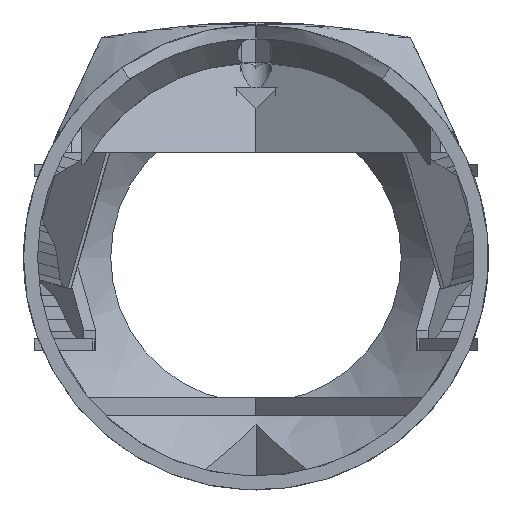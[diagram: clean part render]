
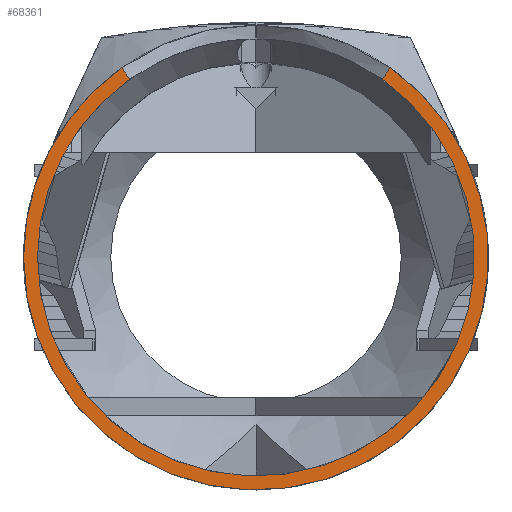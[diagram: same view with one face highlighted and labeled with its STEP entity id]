
A CAD part, left-side view. The second image highlights one B-rep face of the part: STEP entity #68361.
In plain terms, the highlighted planar face has unit normal (-1, 0, 0).
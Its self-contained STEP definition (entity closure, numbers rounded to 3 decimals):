
#79 = VERTEX_POINT('',#80);
#80 = CARTESIAN_POINT('',(198.,-11.551,16.327));
#108 = CYLINDRICAL_SURFACE('',#109,20.);
#109 = AXIS2_PLACEMENT_3D('',#110,#111,#112);
#110 = CARTESIAN_POINT('',(42.,0.,0.));
#111 = DIRECTION('',(1.,0.,0.));
#112 = DIRECTION('',(-0.,1.,0.));
#139 = B_SPLINE_SURFACE_WITH_KNOTS('',1,1,(
    (#140,#141)
    ,(#142,#143
  )),.UNSPECIFIED.,.F.,.F.,.F.,(2,2),(2,2),(0.,26.),(0.,1.),
  .PIECEWISE_BEZIER_KNOTS.);
#140 = CARTESIAN_POINT('',(193.99,0.,0.));
#141 = CARTESIAN_POINT('',(212.482,0.,0.));
#142 = CARTESIAN_POINT('',(193.99,-18.2,18.568));
#143 = CARTESIAN_POINT('',(212.482,-0.104,
    26.));
#170 = EDGE_CURVE('',#79,#171,#173,.T.);
#171 = VERTEX_POINT('',#172);
#172 = CARTESIAN_POINT('',(198.,20.,0.));
#173 = SURFACE_CURVE('',#174,(#179,#186),.PCURVE_S1.);
#174 = CIRCLE('',#175,20.);
#175 = AXIS2_PLACEMENT_3D('',#176,#177,#178);
#176 = CARTESIAN_POINT('',(198.,0.,0.));
#177 = DIRECTION('',(1.,0.,0.));
#178 = DIRECTION('',(-0.,1.,0.));
#179 = PCURVE('',#108,#180);
#180 = DEFINITIONAL_REPRESENTATION('',(#181),#185);
#181 = LINE('',#182,#183);
#182 = CARTESIAN_POINT('',(0.,156.));
#183 = VECTOR('',#184,1.);
#184 = DIRECTION('',(1.,0.));
#185 = ( GEOMETRIC_REPRESENTATION_CONTEXT(2) 
PARAMETRIC_REPRESENTATION_CONTEXT() REPRESENTATION_CONTEXT('2D SPACE',''
  ) );
#186 = PCURVE('',#187,#192);
#187 = PLANE('',#188);
#188 = AXIS2_PLACEMENT_3D('',#189,#190,#191);
#189 = CARTESIAN_POINT('',(198.,-60.,-120.));
#190 = DIRECTION('',(1.,0.,-0.));
#191 = DIRECTION('',(0.,0.,1.));
#192 = DEFINITIONAL_REPRESENTATION('',(#193),#197);
#193 = CIRCLE('',#194,20.);
#194 = AXIS2_PLACEMENT_2D('',#195,#196);
#195 = CARTESIAN_POINT('',(120.,-60.));
#196 = DIRECTION('',(0.,-1.));
#197 = ( GEOMETRIC_REPRESENTATION_CONTEXT(2) 
PARAMETRIC_REPRESENTATION_CONTEXT() REPRESENTATION_CONTEXT('2D SPACE',''
  ) );
#4441 = EDGE_CURVE('',#171,#4442,#4444,.T.);
#4442 = VERTEX_POINT('',#4443);
#4443 = CARTESIAN_POINT('',(198.,11.551,16.327));
#4444 = SURFACE_CURVE('',#4445,(#4450,#4457),.PCURVE_S1.);
#4445 = CIRCLE('',#4446,20.);
#4446 = AXIS2_PLACEMENT_3D('',#4447,#4448,#4449);
#4447 = CARTESIAN_POINT('',(198.,0.,0.));
#4448 = DIRECTION('',(1.,0.,0.));
#4449 = DIRECTION('',(-0.,1.,0.));
#4450 = PCURVE('',#108,#4451);
#4451 = DEFINITIONAL_REPRESENTATION('',(#4452),#4456);
#4452 = LINE('',#4453,#4454);
#4453 = CARTESIAN_POINT('',(0.,156.));
#4454 = VECTOR('',#4455,1.);
#4455 = DIRECTION('',(1.,0.));
#4456 = ( GEOMETRIC_REPRESENTATION_CONTEXT(2) 
PARAMETRIC_REPRESENTATION_CONTEXT() REPRESENTATION_CONTEXT('2D SPACE',''
  ) );
#4457 = PCURVE('',#187,#4458);
#4458 = DEFINITIONAL_REPRESENTATION('',(#4459),#4463);
#4459 = CIRCLE('',#4460,20.);
#4460 = AXIS2_PLACEMENT_2D('',#4461,#4462);
#4461 = CARTESIAN_POINT('',(120.,-60.));
#4462 = DIRECTION('',(0.,-1.));
#4463 = ( GEOMETRIC_REPRESENTATION_CONTEXT(2) 
PARAMETRIC_REPRESENTATION_CONTEXT() REPRESENTATION_CONTEXT('2D SPACE',''
  ) );
#4519 = B_SPLINE_SURFACE_WITH_KNOTS('',1,1,(
    (#4520,#4521)
    ,(#4522,#4523
    )),.UNSPECIFIED.,.F.,.F.,.F.,(2,2),(2,2),(0.,26.),(0.,1.),
  .PIECEWISE_BEZIER_KNOTS.);
#4520 = CARTESIAN_POINT('',(193.99,18.2,18.568));
#4521 = CARTESIAN_POINT('',(212.482,0.104,
    26.));
#4522 = CARTESIAN_POINT('',(193.99,0.,0.));
#4523 = CARTESIAN_POINT('',(212.482,0.,0.));
#7077 = CYLINDRICAL_SURFACE('',#7078,18.8);
#7078 = AXIS2_PLACEMENT_3D('',#7079,#7080,#7081);
#7079 = CARTESIAN_POINT('',(42.,0.,0.));
#7080 = DIRECTION('',(1.,0.,0.));
#7081 = DIRECTION('',(-0.,1.,0.));
#7115 = VERTEX_POINT('',#7116);
#7116 = CARTESIAN_POINT('',(198.,-10.858,15.348));
#7196 = EDGE_CURVE('',#7115,#7197,#7199,.T.);
#7197 = VERTEX_POINT('',#7198);
#7198 = CARTESIAN_POINT('',(198.,18.8,0.));
#7199 = SURFACE_CURVE('',#7200,(#7205,#7212),.PCURVE_S1.);
#7200 = CIRCLE('',#7201,18.8);
#7201 = AXIS2_PLACEMENT_3D('',#7202,#7203,#7204);
#7202 = CARTESIAN_POINT('',(198.,0.,0.));
#7203 = DIRECTION('',(1.,0.,0.));
#7204 = DIRECTION('',(-0.,1.,0.));
#7205 = PCURVE('',#7077,#7206);
#7206 = DEFINITIONAL_REPRESENTATION('',(#7207),#7211);
#7207 = LINE('',#7208,#7209);
#7208 = CARTESIAN_POINT('',(0.,156.));
#7209 = VECTOR('',#7210,1.);
#7210 = DIRECTION('',(1.,0.));
#7211 = ( GEOMETRIC_REPRESENTATION_CONTEXT(2) 
PARAMETRIC_REPRESENTATION_CONTEXT() REPRESENTATION_CONTEXT('2D SPACE',''
  ) );
#7212 = PCURVE('',#187,#7213);
#7213 = DEFINITIONAL_REPRESENTATION('',(#7214),#7218);
#7214 = CIRCLE('',#7215,18.8);
#7215 = AXIS2_PLACEMENT_2D('',#7216,#7217);
#7216 = CARTESIAN_POINT('',(120.,-60.));
#7217 = DIRECTION('',(0.,-1.));
#7218 = ( GEOMETRIC_REPRESENTATION_CONTEXT(2) 
PARAMETRIC_REPRESENTATION_CONTEXT() REPRESENTATION_CONTEXT('2D SPACE',''
  ) );
#12271 = EDGE_CURVE('',#7197,#12272,#12274,.T.);
#12272 = VERTEX_POINT('',#12273);
#12273 = CARTESIAN_POINT('',(198.,10.858,15.348));
#12274 = SURFACE_CURVE('',#12275,(#12280,#12287),.PCURVE_S1.);
#12275 = CIRCLE('',#12276,18.8);
#12276 = AXIS2_PLACEMENT_3D('',#12277,#12278,#12279);
#12277 = CARTESIAN_POINT('',(198.,0.,0.));
#12278 = DIRECTION('',(1.,0.,0.));
#12279 = DIRECTION('',(-0.,1.,0.));
#12280 = PCURVE('',#7077,#12281);
#12281 = DEFINITIONAL_REPRESENTATION('',(#12282),#12286);
#12282 = LINE('',#12283,#12284);
#12283 = CARTESIAN_POINT('',(0.,156.));
#12284 = VECTOR('',#12285,1.);
#12285 = DIRECTION('',(1.,0.));
#12286 = ( GEOMETRIC_REPRESENTATION_CONTEXT(2) 
PARAMETRIC_REPRESENTATION_CONTEXT() REPRESENTATION_CONTEXT('2D SPACE',''
  ) );
#12287 = PCURVE('',#187,#12288);
#12288 = DEFINITIONAL_REPRESENTATION('',(#12289),#12293);
#12289 = CIRCLE('',#12290,18.8);
#12290 = AXIS2_PLACEMENT_2D('',#12291,#12292);
#12291 = CARTESIAN_POINT('',(120.,-60.));
#12292 = DIRECTION('',(0.,-1.));
#12293 = ( GEOMETRIC_REPRESENTATION_CONTEXT(2) 
PARAMETRIC_REPRESENTATION_CONTEXT() REPRESENTATION_CONTEXT('2D SPACE',''
  ) );
#66174 = EDGE_CURVE('',#12272,#4442,#66175,.T.);
#66175 = SURFACE_CURVE('',#66176,(#66179,#66185),.PCURVE_S1.);
#66176 = B_SPLINE_CURVE_WITH_KNOTS('',1,(#66177,#66178),.UNSPECIFIED.,
  .F.,.F.,(2,2),(0.,1.),.PIECEWISE_BEZIER_KNOTS.);
#66177 = CARTESIAN_POINT('',(198.,10.323,14.591));
#66178 = CARTESIAN_POINT('',(198.,11.852,16.753));
#66179 = PCURVE('',#4519,#66180);
#66180 = DEFINITIONAL_REPRESENTATION('',(#66181),#66184);
#66181 = B_SPLINE_CURVE_WITH_KNOTS('',1,(#66182,#66183),.UNSPECIFIED.,
  .F.,.F.,(2,2),(0.,1.),.PIECEWISE_BEZIER_KNOTS.);
#66182 = CARTESIAN_POINT('',(7.2,0.217));
#66183 = CARTESIAN_POINT('',(4.414,0.217));
#66184 = ( GEOMETRIC_REPRESENTATION_CONTEXT(2) 
PARAMETRIC_REPRESENTATION_CONTEXT() REPRESENTATION_CONTEXT('2D SPACE',''
  ) );
#66185 = PCURVE('',#187,#66186);
#66186 = DEFINITIONAL_REPRESENTATION('',(#66187),#66190);
#66187 = B_SPLINE_CURVE_WITH_KNOTS('',1,(#66188,#66189),.UNSPECIFIED.,
  .F.,.F.,(2,2),(0.,1.),.PIECEWISE_BEZIER_KNOTS.);
#66188 = CARTESIAN_POINT('',(134.591,-70.323));
#66189 = CARTESIAN_POINT('',(136.753,-71.852));
#66190 = ( GEOMETRIC_REPRESENTATION_CONTEXT(2) 
PARAMETRIC_REPRESENTATION_CONTEXT() REPRESENTATION_CONTEXT('2D SPACE',''
  ) );
#68361 = ADVANCED_FACE('',(#68362),#187,.F.);
#68362 = FACE_BOUND('',#68363,.F.);
#68363 = EDGE_LOOP('',(#68364,#68365,#68366,#68367,#68368,#68369));
#68364 = ORIENTED_EDGE('',*,*,#170,.T.);
#68365 = ORIENTED_EDGE('',*,*,#4441,.T.);
#68366 = ORIENTED_EDGE('',*,*,#66174,.F.);
#68367 = ORIENTED_EDGE('',*,*,#12271,.F.);
#68368 = ORIENTED_EDGE('',*,*,#7196,.F.);
#68369 = ORIENTED_EDGE('',*,*,#68370,.F.);
#68370 = EDGE_CURVE('',#79,#7115,#68371,.T.);
#68371 = SURFACE_CURVE('',#68372,(#68375,#68381),.PCURVE_S1.);
#68372 = B_SPLINE_CURVE_WITH_KNOTS('',1,(#68373,#68374),.UNSPECIFIED.,
  .F.,.F.,(2,2),(0.,1.),.PIECEWISE_BEZIER_KNOTS.);
#68373 = CARTESIAN_POINT('',(198.,-11.852,16.753));
#68374 = CARTESIAN_POINT('',(198.,-10.323,14.591));
#68375 = PCURVE('',#187,#68376);
#68376 = DEFINITIONAL_REPRESENTATION('',(#68377),#68380);
#68377 = B_SPLINE_CURVE_WITH_KNOTS('',1,(#68378,#68379),.UNSPECIFIED.,
  .F.,.F.,(2,2),(0.,1.),.PIECEWISE_BEZIER_KNOTS.);
#68378 = CARTESIAN_POINT('',(136.753,-48.148));
#68379 = CARTESIAN_POINT('',(134.591,-49.677));
#68380 = ( GEOMETRIC_REPRESENTATION_CONTEXT(2) 
PARAMETRIC_REPRESENTATION_CONTEXT() REPRESENTATION_CONTEXT('2D SPACE',''
  ) );
#68381 = PCURVE('',#139,#68382);
#68382 = DEFINITIONAL_REPRESENTATION('',(#68383),#68386);
#68383 = B_SPLINE_CURVE_WITH_KNOTS('',1,(#68384,#68385),.UNSPECIFIED.,
  .F.,.F.,(2,2),(0.,1.),.PIECEWISE_BEZIER_KNOTS.);
#68384 = CARTESIAN_POINT('',(21.586,0.217));
#68385 = CARTESIAN_POINT('',(18.8,0.217));
#68386 = ( GEOMETRIC_REPRESENTATION_CONTEXT(2) 
PARAMETRIC_REPRESENTATION_CONTEXT() REPRESENTATION_CONTEXT('2D SPACE',''
  ) );
